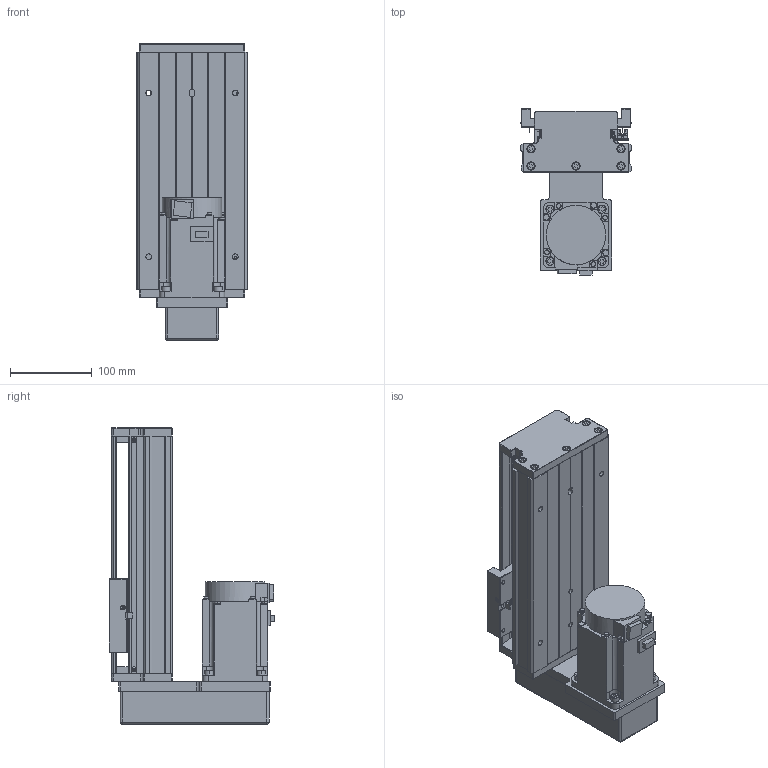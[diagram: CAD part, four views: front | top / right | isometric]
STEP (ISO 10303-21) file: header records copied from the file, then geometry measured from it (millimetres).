
FILE_DESCRIPTION (( 'STEP AP203' ), '1' );
FILE_NAME ('KTH130-150-BM-M75-C4.step', '2023-06-30T04:36:36', ( '微软用户' ), ( '微软中国' ), 'SwSTEP 2.0', 'SolidWorks 2020', '' );
FILE_SCHEMA (( 'CONFIG_CONTROL_DESIGN' ));
Length unit declared in the file: millimetre
Products named in the file (18): KTH130-005; GBT 70.1-M3℅5; KTH130-150-BM-M75-C4; GB1155-6X6; GBT77-2000 M3×3; GBT70.1 M5℅16; す晦芛蹟隊 M3℅5; GBT 70.2-M3¡Á5_M3¡Á6; GBT 70.3-M3℅8; GTH14-001_150; CTHA60-017; hg-kn73j_-s100; KTH130-002_KTH130-002; EE_SX911P_R; CTHA86-015-3_CTHA86-015-4; KTH130-004; CTHA60-016; CTHA86-035
Assembly tree (49 placements, depth 2):
  KTH130-150-BM-M75-C4
    GTH14-001_150
    KTH130-002_KTH130-002
    KTH130-004
    KTH130-005
    GB1155-6X6  x2
    GBT70.1 M5℅16  x10
    GBT 70.2-M3¡Á5_M3¡Á6  x4
    CTHA60-017  x3
    EE_SX911P_R  x3
    CTHA60-016  x2
    GBT 70.1-M3℅5  x6
    GBT77-2000 M3×3  x6
    す晦芛蹟隊 M3℅5  x2
    GBT 70.3-M3℅8  x4
    hg-kn73j_-s100
    CTHA86-015-3_CTHA86-015-4
    CTHA86-035
Bounding box: 135 x 202.8 x 362 mm (x, y, z)
Volume: 3164740.2 mm3; surface area: 461232.1 mm2
Topology: 52 solids, 52 shells, 2162 faces, 5244 edges, 3279 vertices
Faces by surface type: plane 1202, cylinder 606, cone 238, torus 100, sphere 16
Entity records: 39021 total; most frequent: CARTESIAN_POINT 6572, DIRECTION 6397, ORIENTED_EDGE 5992, EDGE_CURVE 2996, AXIS2_PLACEMENT_3D 2222, LINE 1953, VECTOR 1953, VERTEX_POINT 1913
